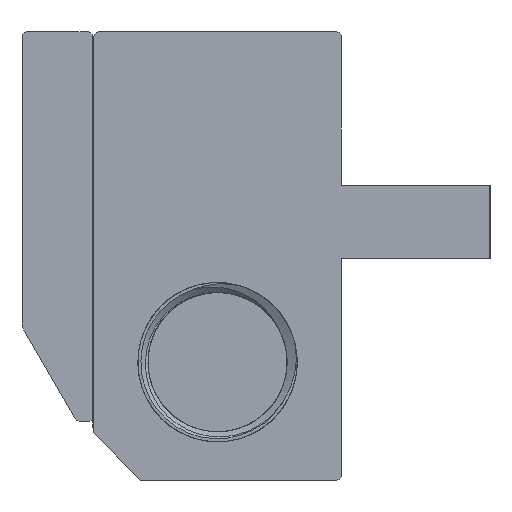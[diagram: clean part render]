
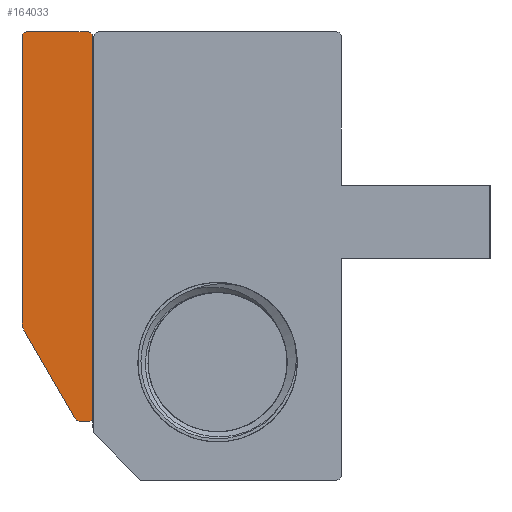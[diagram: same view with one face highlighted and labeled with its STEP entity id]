
A CAD part, left-side view. The second image highlights one B-rep face of the part: STEP entity #164033.
In plain terms, the highlighted planar face has unit normal (-1, 0, 0).
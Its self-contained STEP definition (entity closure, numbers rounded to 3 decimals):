
#2169 = EDGE_CURVE ( 'NONE', #182744, #70784, #322449, .T. ) ;
#3640 = VERTEX_POINT ( 'NONE', #133938 ) ;
#22123 = CARTESIAN_POINT ( 'NONE',  ( -317., 27.08, -24.678 ) ) ;
#22904 = EDGE_CURVE ( 'NONE', #3640, #204878, #68927, .T. ) ;
#22985 = VERTEX_POINT ( 'NONE', #290814 ) ;
#24828 = EDGE_LOOP ( 'NONE', ( #291863, #208342, #242594, #159220, #79251, #305913, #234425, #68366, #177484, #122864 ) ) ;
#26648 = AXIS2_PLACEMENT_3D ( 'NONE', #268316, #44815, #229062 ) ;
#28693 = VECTOR ( 'NONE', #44430, 1000. ) ;
#36147 = VERTEX_POINT ( 'NONE', #129270 ) ;
#42054 = CARTESIAN_POINT ( 'NONE',  ( -317., 21.08, -33. ) ) ;
#44430 = DIRECTION ( 'NONE',  ( 0., -1., 0. ) ) ;
#44815 = DIRECTION ( 'NONE',  ( -1., 0., 0. ) ) ;
#45152 = CARTESIAN_POINT ( 'NONE',  ( -317., 21.08, -0.4 ) ) ;
#45743 = AXIS2_PLACEMENT_3D ( 'NONE', #251805, #256636, #80445 ) ;
#46063 = EDGE_CURVE ( 'NONE', #295309, #139764, #285300, .T. ) ;
#49935 = CIRCLE ( 'NONE', #232329, 0.4 ) ;
#50389 = EDGE_CURVE ( 'NONE', #139764, #22985, #49935, .T. ) ;
#50936 = EDGE_CURVE ( 'NONE', #70784, #172068, #124239, .T. ) ;
#68366 = ORIENTED_EDGE ( 'NONE', *, *, #147204, .T. ) ;
#68927 = LINE ( 'NONE', #192946, #28693 ) ;
#70784 = VERTEX_POINT ( 'NONE', #187352 ) ;
#79251 = ORIENTED_EDGE ( 'NONE', *, *, #22904, .T. ) ;
#79387 = CARTESIAN_POINT ( 'NONE',  ( -317., 21.33, -33. ) ) ;
#80445 = DIRECTION ( 'NONE',  ( 0., 0., -1. ) ) ;
#93995 = EDGE_CURVE ( 'NONE', #22985, #182744, #286989, .T. ) ;
#100619 = AXIS2_PLACEMENT_3D ( 'NONE', #144054, #290905, #243614 ) ;
#108525 = VERTEX_POINT ( 'NONE', #45152 ) ;
#111604 = FACE_OUTER_BOUND ( 'NONE', #24828, .T. ) ;
#112357 = LINE ( 'NONE', #42054, #309574 ) ;
#122864 = ORIENTED_EDGE ( 'NONE', *, *, #50389, .T. ) ;
#124239 = LINE ( 'NONE', #191254, #274186 ) ;
#125934 = VECTOR ( 'NONE', #133621, 1000. ) ;
#129270 = CARTESIAN_POINT ( 'NONE',  ( -317., 21.08, -32.75 ) ) ;
#131029 = CARTESIAN_POINT ( 'NONE',  ( -317., 25.88, -24.678 ) ) ;
#132652 = DIRECTION ( 'NONE',  ( 0., 0., -1. ) ) ;
#133621 = DIRECTION ( 'NONE',  ( 0., 1., 0. ) ) ;
#133938 = CARTESIAN_POINT ( 'NONE',  ( -317., 22.23, -33. ) ) ;
#135890 = DIRECTION ( 'NONE',  ( -1., 0., 0. ) ) ;
#139764 = VERTEX_POINT ( 'NONE', #192816 ) ;
#142901 = EDGE_CURVE ( 'NONE', #172068, #3640, #254684, .T. ) ;
#144054 = CARTESIAN_POINT ( 'NONE',  ( -317., 21.08, -33. ) ) ;
#146404 = CARTESIAN_POINT ( 'NONE',  ( -317., 21.48, 0. ) ) ;
#147204 = EDGE_CURVE ( 'NONE', #108525, #295309, #198569, .T. ) ;
#153546 = DIRECTION ( 'NONE',  ( 0., -0.5, -0.866 ) ) ;
#156439 = CARTESIAN_POINT ( 'NONE',  ( -317., 22.23, -32.6 ) ) ;
#159220 = ORIENTED_EDGE ( 'NONE', *, *, #142901, .T. ) ;
#164033 = ADVANCED_FACE ( 'NONE', ( #111604 ), #263252, .F. ) ;
#171413 = AXIS2_PLACEMENT_3D ( 'NONE', #131029, #186451, #132652 ) ;
#172068 = VERTEX_POINT ( 'NONE', #315955 ) ;
#177484 = ORIENTED_EDGE ( 'NONE', *, *, #46063, .T. ) ;
#180933 = DIRECTION ( 'NONE',  ( 0., 0., -1. ) ) ;
#182744 = VERTEX_POINT ( 'NONE', #22123 ) ;
#186451 = DIRECTION ( 'NONE',  ( -1., 0., 0. ) ) ;
#187352 = CARTESIAN_POINT ( 'NONE',  ( -317., 26.919, -25.278 ) ) ;
#189116 = CARTESIAN_POINT ( 'NONE',  ( -317., 27.08, -33. ) ) ;
#191254 = CARTESIAN_POINT ( 'NONE',  ( -317., 22.461, -33. ) ) ;
#192816 = CARTESIAN_POINT ( 'NONE',  ( -317., 26.68, 0. ) ) ;
#192946 = CARTESIAN_POINT ( 'NONE',  ( -317., 21.08, -33. ) ) ;
#197419 = AXIS2_PLACEMENT_3D ( 'NONE', #156439, #304825, #180933 ) ;
#198569 = CIRCLE ( 'NONE', #26648, 0.4 ) ;
#199572 = EDGE_CURVE ( 'NONE', #204878, #36147, #243741, .T. ) ;
#204878 = VERTEX_POINT ( 'NONE', #79387 ) ;
#208342 = ORIENTED_EDGE ( 'NONE', *, *, #2169, .T. ) ;
#209298 = CARTESIAN_POINT ( 'NONE',  ( -317., 26.68, -0.4 ) ) ;
#228829 = VECTOR ( 'NONE', #283774, 1000. ) ;
#229062 = DIRECTION ( 'NONE',  ( 0., 0., -1. ) ) ;
#231566 = CARTESIAN_POINT ( 'NONE',  ( -317., 21.08, 0. ) ) ;
#232329 = AXIS2_PLACEMENT_3D ( 'NONE', #209298, #135890, #308749 ) ;
#234425 = ORIENTED_EDGE ( 'NONE', *, *, #287822, .T. ) ;
#242594 = ORIENTED_EDGE ( 'NONE', *, *, #50936, .T. ) ;
#243614 = DIRECTION ( 'NONE',  ( 0., 0., -1. ) ) ;
#243741 = CIRCLE ( 'NONE', #45743, 0.25 ) ;
#251805 = CARTESIAN_POINT ( 'NONE',  ( -317., 21.33, -32.75 ) ) ;
#254684 = CIRCLE ( 'NONE', #197419, 0.4 ) ;
#256636 = DIRECTION ( 'NONE',  ( -1., 0., 0. ) ) ;
#263252 = PLANE ( 'NONE',  #100619 ) ;
#267176 = DIRECTION ( 'NONE',  ( 0., 0., 1. ) ) ;
#268316 = CARTESIAN_POINT ( 'NONE',  ( -317., 21.48, -0.4 ) ) ;
#274186 = VECTOR ( 'NONE', #153546, 1000. ) ;
#283774 = DIRECTION ( 'NONE',  ( 0., 0., -1. ) ) ;
#285300 = LINE ( 'NONE', #231566, #125934 ) ;
#286989 = LINE ( 'NONE', #189116, #228829 ) ;
#287822 = EDGE_CURVE ( 'NONE', #36147, #108525, #112357, .T. ) ;
#290814 = CARTESIAN_POINT ( 'NONE',  ( -317., 27.08, -0.4 ) ) ;
#290905 = DIRECTION ( 'NONE',  ( 1., 0., 0. ) ) ;
#291863 = ORIENTED_EDGE ( 'NONE', *, *, #93995, .T. ) ;
#295309 = VERTEX_POINT ( 'NONE', #146404 ) ;
#304825 = DIRECTION ( 'NONE',  ( -1., 0., 0. ) ) ;
#305913 = ORIENTED_EDGE ( 'NONE', *, *, #199572, .T. ) ;
#308749 = DIRECTION ( 'NONE',  ( 0., 0., -1. ) ) ;
#309574 = VECTOR ( 'NONE', #267176, 1000. ) ;
#315955 = CARTESIAN_POINT ( 'NONE',  ( -317., 22.577, -32.8 ) ) ;
#322449 = CIRCLE ( 'NONE', #171413, 1.2 ) ;
